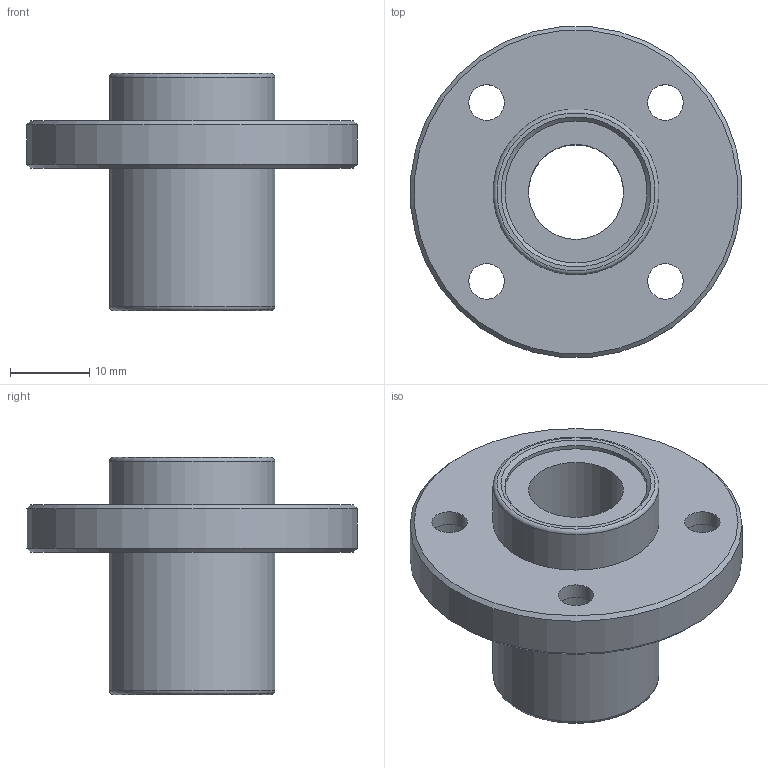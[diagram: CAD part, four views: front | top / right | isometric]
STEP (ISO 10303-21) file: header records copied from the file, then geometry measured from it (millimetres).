
FILE_DESCRIPTION(/* description */ (''),/* implementation_level */ '2;1');
FILE_NAME(/* name */ 'LMFP12UU',/* time_stamp */ '2019-07-03T11:32:51+02:00',/* author */ ('VĂ©gh MĂˇtĂ©'),/* organization */ ('Bearing Kft'),/* preprocessor_version */ 'ST-DEVELOPER v16.7',/* originating_system */ 'DEX',/* authorisation */ $);
FILE_SCHEMA (('AUTOMOTIVE_DESIGN {1 0 10303 214 3 1 1}'));
Length unit declared in the file: millimetre
Products named in the file (1): LMFP12UU
Bounding box: 41.84 x 41.84 x 30 mm (x, y, z)
Volume: 12048.5 mm3; surface area: 6330.9 mm2
Topology: 1 solids, 1 shells, 339 faces, 844 edges, 562 vertices
Faces by surface type: plane 256, bspline 60, cylinder 17, cone 4, torus 2
Full cylindrical faces by diameter (mm): 4.5 x4, 7.5 x4, 12 x1, 18 x2, 21 x2, 42 x1
Entity records: 12631 total; most frequent: CARTESIAN_POINT 4957, ORIENTED_EDGE 1638, DIRECTION 1299, EDGE_CURVE 819, LINE 659, VECTOR 659, VERTEX_POINT 558, EDGE_LOOP 425
